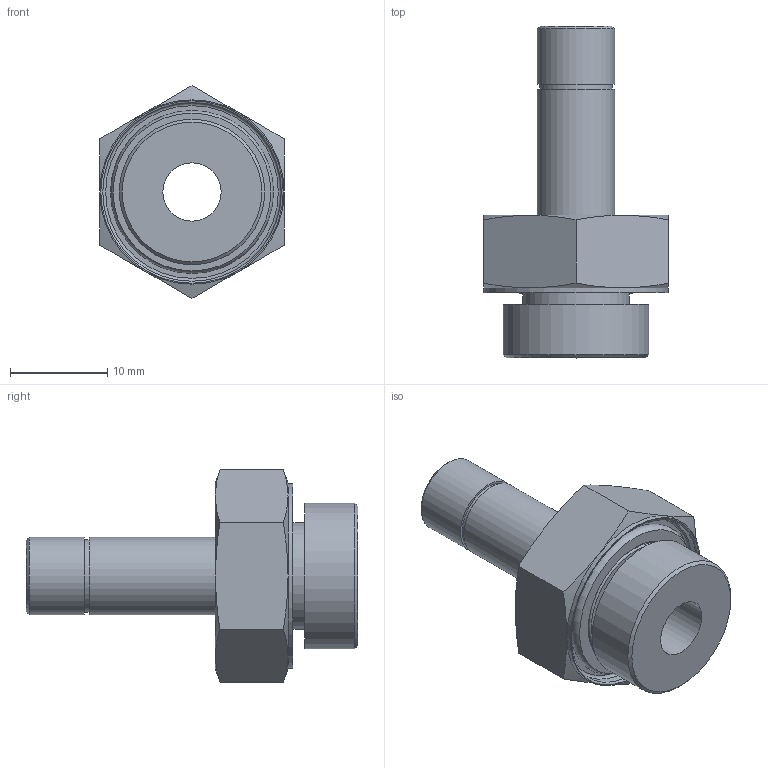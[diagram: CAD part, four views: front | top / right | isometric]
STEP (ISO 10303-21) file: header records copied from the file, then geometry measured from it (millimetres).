
FILE_DESCRIPTION(/* description */ (''),/* implementation_level */ '2;1');
FILE_NAME(/* name */ 'LXH16 0008 B3.stp',/* time_stamp */ '2026-04-29T15:08:05+02:00',/* author */ ('freju'),/* organization */ (''),/* preprocessor_version */ 'ST-DEVELOPER v20.1',/* originating_system */ 'Autodesk Inventor 2026',/* authorisation */ '');
FILE_SCHEMA (('AUTOMOTIVE_DESIGN { 1 0 10303 214 3 1 1 }'));
Length unit declared in the file: millimetre
Products named in the file (4): LXH16 0008 B3; LXH16 0008 B3_1; O-Ring; ISO 3601-1 - A 0132 G
Assembly tree (3 placements, depth 3):
  LXH16 0008 B3
    LXH16 0008 B3_1
    O-Ring
      ISO 3601-1 - A 0132 G
Bounding box: 19 x 34.2 x 21.94 mm (x, y, z)
Volume: 3505.3 mm3; surface area: 3029.7 mm2
Topology: 2 solids, 2 shells, 46 faces, 92 edges, 57 vertices
Faces by surface type: plane 17, cone 14, cylinder 9, torus 6
Full cylindrical faces by diameter (mm): 6 x1, 7.5 x1, 8 x2, 11 x1, 13.2 x1, 15 x1, 18.4 x1, 19 x1
Entity records: 1329 total; most frequent: CARTESIAN_POINT 250, DIRECTION 225, ORIENTED_EDGE 184, AXIS2_PLACEMENT_3D 104, EDGE_CURVE 92, EDGE_LOOP 57, VERTEX_POINT 57, CIRCLE 51
